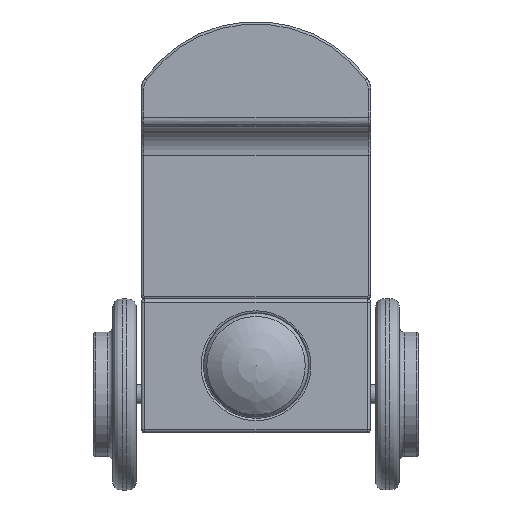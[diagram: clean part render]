
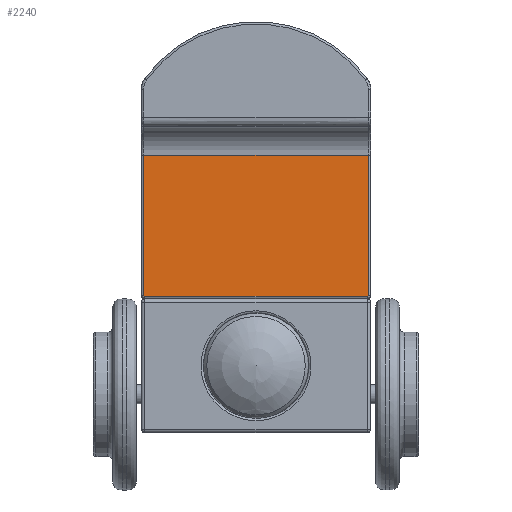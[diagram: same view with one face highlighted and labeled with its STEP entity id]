
A CAD part, left-side view. The second image highlights one B-rep face of the part: STEP entity #2240.
In plain terms, the highlighted planar face has unit normal (-1, 0, 0).
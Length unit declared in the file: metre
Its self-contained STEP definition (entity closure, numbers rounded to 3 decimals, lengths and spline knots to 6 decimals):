
#2240 = ADVANCED_FACE( '', ( #4598 ), #4599, .T. );
#4598 = FACE_OUTER_BOUND( '', #13055, .T. );
#4599 = PLANE( '', #13056 );
#13055 = EDGE_LOOP( '', ( #20275, #20276, #20277, #20278, #20279, #20280 ) );
#13056 = AXIS2_PLACEMENT_3D( '', #20281, #20282, #20283 );
#20275 = ORIENTED_EDGE( '', *, *, #24164, .T. );
#20276 = ORIENTED_EDGE( '', *, *, #24803, .T. );
#20277 = ORIENTED_EDGE( '', *, *, #23708, .T. );
#20278 = ORIENTED_EDGE( '', *, *, #25071, .T. );
#20279 = ORIENTED_EDGE( '', *, *, #24473, .T. );
#20280 = ORIENTED_EDGE( '', *, *, #23203, .T. );
#20281 = CARTESIAN_POINT( '', ( -0.0295, -0.0125, 0.029043 ) );
#20282 = DIRECTION( '', ( -1., 0., 0. ) );
#20283 = DIRECTION( '', ( 0., 0., 1. ) );
#23203 = EDGE_CURVE( '', #26593, #26591, #26594, .T. );
#23708 = EDGE_CURVE( '', #27404, #27409, #27411, .T. );
#24164 = EDGE_CURVE( '', #26591, #28102, #28104, .T. );
#24473 = EDGE_CURVE( '', #28568, #26593, #28569, .T. );
#24803 = EDGE_CURVE( '', #28102, #27404, #29005, .F. );
#25071 = EDGE_CURVE( '', #27409, #28568, #29320, .F. );
#26591 = VERTEX_POINT( '', #32158 );
#26593 = VERTEX_POINT( '', #32160 );
#26594 = LINE( '', #32161, #32162 );
#27404 = VERTEX_POINT( '', #34084 );
#27409 = VERTEX_POINT( '', #34089 );
#27411 = CIRCLE( '', #34091, 0.0001 );
#28102 = VERTEX_POINT( '', #35341 );
#28104 = LINE( '', #35343, #35344 );
#28568 = VERTEX_POINT( '', #36315 );
#28569 = CIRCLE( '', #36316, 0.0001 );
#29005 = LINE( '', #37203, #37204 );
#29320 = LINE( '', #37808, #37809 );
#32158 = CARTESIAN_POINT( '', ( -0.0295, -0.01175, 0.035 ) );
#32160 = CARTESIAN_POINT( '', ( -0.0295, -0.01175, 0.02035 ) );
#32161 = CARTESIAN_POINT( '', ( -0.0295, -0.01175, 0.035 ) );
#32162 = VECTOR( '', #39037, 1. );
#34084 = CARTESIAN_POINT( '', ( -0.0295, 0.01175, 0.02035 ) );
#34089 = CARTESIAN_POINT( '', ( -0.0295, 0.01165, 0.02025 ) );
#34091 = AXIS2_PLACEMENT_3D( '', #39344, #39345, #39346 );
#35341 = CARTESIAN_POINT( '', ( -0.0295, 0.01175, 0.035 ) );
#35343 = CARTESIAN_POINT( '', ( -0.0295, -0.0125, 0.035 ) );
#35344 = VECTOR( '', #39570, 1. );
#36315 = CARTESIAN_POINT( '', ( -0.0295, -0.01165, 0.02025 ) );
#36316 = AXIS2_PLACEMENT_3D( '', #39699, #39700, #39701 );
#37203 = CARTESIAN_POINT( '', ( -0.0295, 0.01175, 0.029043 ) );
#37204 = VECTOR( '', #39853, 1. );
#37808 = CARTESIAN_POINT( '', ( -0.0295, -0.01165, 0.02025 ) );
#37809 = VECTOR( '', #39962, 1. );
#39037 = DIRECTION( '', ( 0., 0., 1. ) );
#39344 = CARTESIAN_POINT( '', ( -0.0295, 0.01165, 0.02035 ) );
#39345 = DIRECTION( '', ( -1., 0., 0. ) );
#39346 = DIRECTION( '', ( 0., 0., 1. ) );
#39570 = DIRECTION( '', ( 0., 1., 0. ) );
#39699 = CARTESIAN_POINT( '', ( -0.0295, -0.01165, 0.02035 ) );
#39700 = DIRECTION( '', ( -1., 0., 0. ) );
#39701 = DIRECTION( '', ( 0., 0., 1. ) );
#39853 = DIRECTION( '', ( 0., 0., 1. ) );
#39962 = DIRECTION( '', ( 0., 1., 0. ) );
